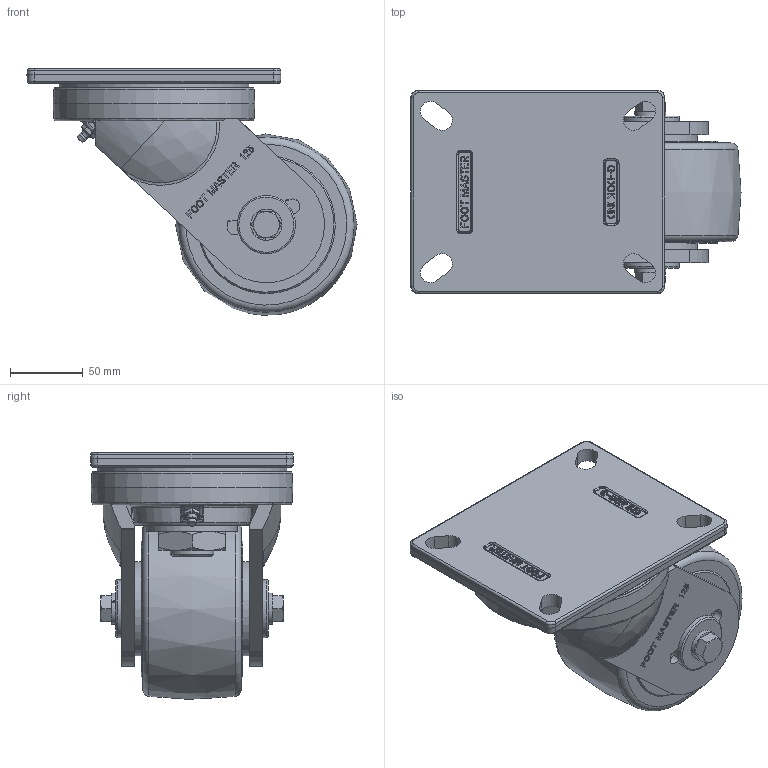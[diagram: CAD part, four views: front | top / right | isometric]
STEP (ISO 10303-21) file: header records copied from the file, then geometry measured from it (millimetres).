
FILE_DESCRIPTION(/* description */ (''),/* implementation_level */ '2;1');
FILE_NAME(/* name */ 'Y:\1.기술연구소\2.연구개발 진행중\133.고하중캐스터 브레이크 타입 변경건_2025.11.03\1.도면\4.홈페이지용 도면\01. 3D\GXT-125 SERIES\GXT-125-STEP\GXT-125-ASF-MCD.stp',/* time_stamp */ '2026-07-22T10:32:12+09:00',/* author */ ('장용하'),/* organization */ (''),/* preprocessor_version */ 'ST-DEVELOPER v18.1',/* originating_system */ 'Autodesk Inventor 2021',/* authorisation */ '');
FILE_SCHEMA (('CONFIG_CONTROL_DESIGN'));
Length unit declared in the file: millimetre
Products named in the file (1): GXT-125-ASF-MCD
Bounding box: 227.5 x 140 x 169.95 mm (x, y, z)
Volume: 1794078.1 mm3; surface area: 163763.9 mm2
Topology: 1 solids, 2 shells, 982 faces, 2655 edges, 1745 vertices
Faces by surface type: plane 482, bspline 355, cylinder 95, cone 28, torus 18, sphere 4
Full cylindrical faces by diameter (mm): 4 x1, 12 x2, 21.5 x2, 30 x1, 40 x2, 62.5 x1, 65 x2, 131.086 x1
Entity records: 32164 total; most frequent: CARTESIAN_POINT 9708, ORIENTED_EDGE 5302, DIRECTION 3501, EDGE_CURVE 2651, VERTEX_POINT 1744, LINE 1533, VECTOR 1533, EDGE_LOOP 1071
